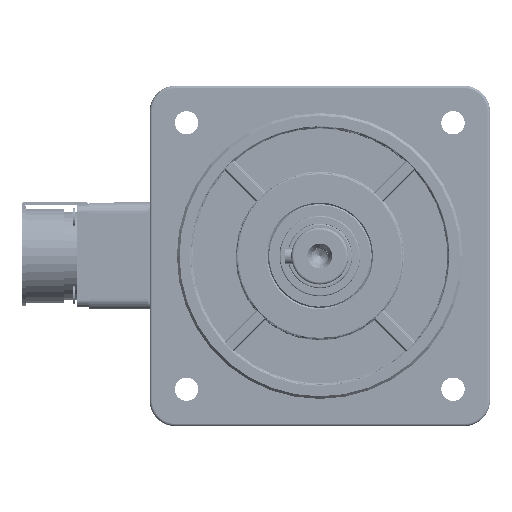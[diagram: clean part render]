
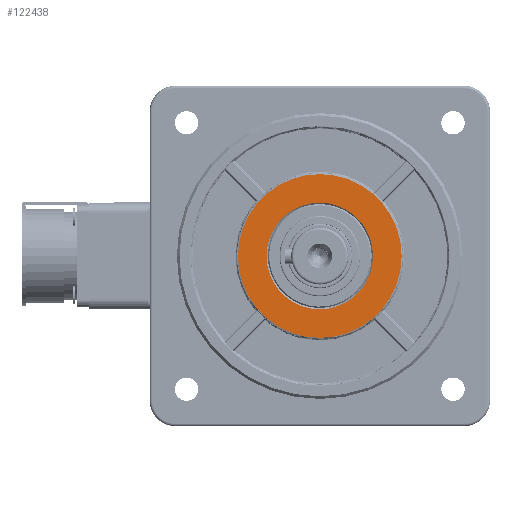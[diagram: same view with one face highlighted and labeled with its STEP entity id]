
A CAD part, left-side view. The second image highlights one B-rep face of the part: STEP entity #122438.
In plain terms, the highlighted planar face has unit normal (-1, 0, 0) as drawn and (1, 0, 0) by its records, which use the part's own axes.
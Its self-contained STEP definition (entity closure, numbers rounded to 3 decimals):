
#1968 = EDGE_LOOP ( 'NONE', ( #94569, #139625 ) ) ;
#10254 = CARTESIAN_POINT ( 'NONE',  ( 30., 20., 0. ) ) ;
#15353 = DIRECTION ( 'NONE',  ( 0., 0., 1. ) ) ;
#18675 = DIRECTION ( 'NONE',  ( 0., 0., 1. ) ) ;
#21217 = FACE_BOUND ( 'NONE', #1968, .T. ) ;
#22822 = DIRECTION ( 'NONE',  ( 1., 0., 0. ) ) ;
#26920 = AXIS2_PLACEMENT_3D ( 'NONE', #74279, #118833, #18675 ) ;
#35023 = CIRCLE ( 'NONE', #116733, 31.5 ) ;
#39110 = EDGE_CURVE ( 'NONE', #141857, #142340, #35023, .T. ) ;
#42177 = CARTESIAN_POINT ( 'NONE',  ( 30., 0., 0. ) ) ;
#43794 = VERTEX_POINT ( 'NONE', #138384 ) ;
#47171 = EDGE_CURVE ( 'NONE', #142340, #141857, #130501, .T. ) ;
#54864 = DIRECTION ( 'NONE',  ( -1., 0., 0. ) ) ;
#65828 = FACE_OUTER_BOUND ( 'NONE', #79212, .T. ) ;
#67419 = DIRECTION ( 'NONE',  ( 0., 0., 1. ) ) ;
#67450 = AXIS2_PLACEMENT_3D ( 'NONE', #42177, #86776, #131339 ) ;
#70935 = CARTESIAN_POINT ( 'NONE',  ( 30., 0., 0. ) ) ;
#74279 = CARTESIAN_POINT ( 'NONE',  ( 30., 0., 0. ) ) ;
#74529 = VERTEX_POINT ( 'NONE', #106481 ) ;
#76173 = CARTESIAN_POINT ( 'NONE',  ( 30., 0., 31.5 ) ) ;
#79212 = EDGE_LOOP ( 'NONE', ( #138928, #139972 ) ) ;
#86776 = DIRECTION ( 'NONE',  ( 1., 0., 0. ) ) ;
#89980 = CIRCLE ( 'NONE', #26920, 20.5 ) ;
#94569 = ORIENTED_EDGE ( 'NONE', *, *, #114881, .T. ) ;
#96394 = CIRCLE ( 'NONE', #115028, 20.5 ) ;
#97196 = EDGE_CURVE ( 'NONE', #43794, #74529, #89980, .T. ) ;
#99459 = DIRECTION ( 'NONE',  ( 0., 0., 1. ) ) ;
#103122 = AXIS2_PLACEMENT_3D ( 'NONE', #10254, #54864, #99459 ) ;
#106481 = CARTESIAN_POINT ( 'NONE',  ( 30., 0., -20.5 ) ) ;
#110396 = PLANE ( 'NONE',  #103122 ) ;
#114881 = EDGE_CURVE ( 'NONE', #74529, #43794, #96394, .T. ) ;
#115028 = AXIS2_PLACEMENT_3D ( 'NONE', #70935, #115489, #15353 ) ;
#115489 = DIRECTION ( 'NONE',  ( -1., 0., 0. ) ) ;
#116733 = AXIS2_PLACEMENT_3D ( 'NONE', #122983, #22822, #67419 ) ;
#118833 = DIRECTION ( 'NONE',  ( -1., 0., 0. ) ) ;
#122438 = ADVANCED_FACE ( 'NONE', ( #21217, #65828 ), #110396, .F. ) ;
#122983 = CARTESIAN_POINT ( 'NONE',  ( 30., 0., 0. ) ) ;
#130501 = CIRCLE ( 'NONE', #67450, 31.5 ) ;
#131339 = DIRECTION ( 'NONE',  ( 0., 0., 1. ) ) ;
#134942 = CARTESIAN_POINT ( 'NONE',  ( 30., 0., -31.5 ) ) ;
#138384 = CARTESIAN_POINT ( 'NONE',  ( 30., 0., 20.5 ) ) ;
#138928 = ORIENTED_EDGE ( 'NONE', *, *, #39110, .T. ) ;
#139625 = ORIENTED_EDGE ( 'NONE', *, *, #97196, .T. ) ;
#139972 = ORIENTED_EDGE ( 'NONE', *, *, #47171, .T. ) ;
#141857 = VERTEX_POINT ( 'NONE', #76173 ) ;
#142340 = VERTEX_POINT ( 'NONE', #134942 ) ;
